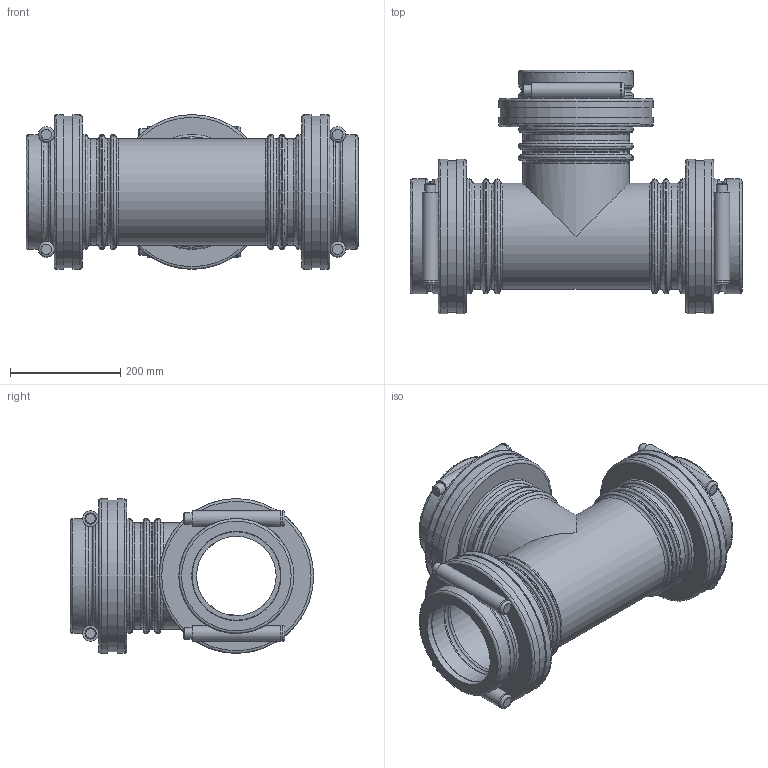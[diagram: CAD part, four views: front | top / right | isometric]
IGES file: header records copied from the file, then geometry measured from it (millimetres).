
Global section: file name: 070406160_0704061600A.ipt; native system: Autodesk Inventor 2015; preprocessor: unknown; author: KIM; date: 20170618.093349; units: millimetre
Bounding box: 601 x 440.5 x 280 mm (x, y, z)
Volume: 14200988.1 mm3; surface area: 1254006.1 mm2
Topology: 1 solids, 1 shells, 187 faces, 461 edges, 307 vertices
Faces by surface type: revolution 83, cylinder 53, plane 45, cone 6
Full cylindrical faces by diameter (mm): 20.16 x6, 28.6 x6, 28.8 x6, 192 x8, 208 x12, 274.4 x3, 280 x6
